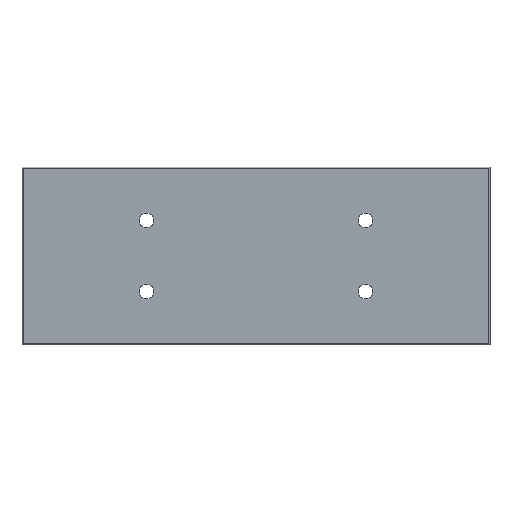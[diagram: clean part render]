
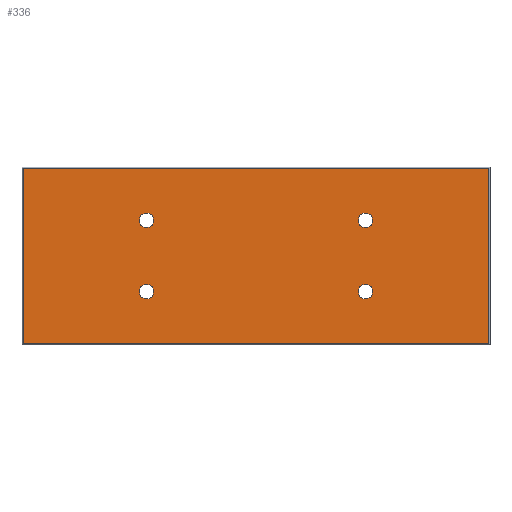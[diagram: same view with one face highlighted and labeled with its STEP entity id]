
A CAD part, top view. The second image highlights one B-rep face of the part: STEP entity #336.
In plain terms, the highlighted planar face has unit normal (0, 0, 1).
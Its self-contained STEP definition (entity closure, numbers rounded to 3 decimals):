
#124 = VERTEX_POINT('',#125);
#125 = CARTESIAN_POINT('',(47.5,110.5,41.5));
#133 = VERTEX_POINT('',#134);
#134 = CARTESIAN_POINT('',(47.5,174.5,41.5));
#140 = EDGE_CURVE('',#124,#133,#141,.T.);
#141 = LINE('',#142,#143);
#142 = CARTESIAN_POINT('',(47.5,110.,41.5));
#143 = VECTOR('',#144,1.);
#144 = DIRECTION('',(0.,1.,0.));
#234 = VERTEX_POINT('',#235);
#235 = CARTESIAN_POINT('',(217.5,110.5,41.5));
#241 = EDGE_CURVE('',#124,#234,#242,.T.);
#242 = LINE('',#243,#244);
#243 = CARTESIAN_POINT('',(47.,110.5,41.5));
#244 = VECTOR('',#245,1.);
#245 = DIRECTION('',(1.,0.,0.));
#336 = ADVANCED_FACE('',(#337,#355,#366,#377,#388),#399,.T.);
#337 = FACE_BOUND('',#338,.T.);
#338 = EDGE_LOOP('',(#339,#340,#341,#349));
#339 = ORIENTED_EDGE('',*,*,#140,.F.);
#340 = ORIENTED_EDGE('',*,*,#241,.T.);
#341 = ORIENTED_EDGE('',*,*,#342,.T.);
#342 = EDGE_CURVE('',#234,#343,#345,.T.);
#343 = VERTEX_POINT('',#344);
#344 = CARTESIAN_POINT('',(217.5,174.5,41.5));
#345 = LINE('',#346,#347);
#346 = CARTESIAN_POINT('',(217.5,110.,41.5));
#347 = VECTOR('',#348,1.);
#348 = DIRECTION('',(0.,1.,0.));
#349 = ORIENTED_EDGE('',*,*,#350,.F.);
#350 = EDGE_CURVE('',#133,#343,#351,.T.);
#351 = LINE('',#352,#353);
#352 = CARTESIAN_POINT('',(47.,174.5,41.5));
#353 = VECTOR('',#354,1.);
#354 = DIRECTION('',(1.,0.,0.));
#355 = FACE_BOUND('',#356,.T.);
#356 = EDGE_LOOP('',(#357));
#357 = ORIENTED_EDGE('',*,*,#358,.T.);
#358 = EDGE_CURVE('',#359,#359,#361,.T.);
#359 = VERTEX_POINT('',#360);
#360 = CARTESIAN_POINT('',(95.15,129.5,41.5));
#361 = CIRCLE('',#362,2.65);
#362 = AXIS2_PLACEMENT_3D('',#363,#364,#365);
#363 = CARTESIAN_POINT('',(92.5,129.5,41.5));
#364 = DIRECTION('',(0.,0.,-1.));
#365 = DIRECTION('',(1.,0.,0.));
#366 = FACE_BOUND('',#367,.T.);
#367 = EDGE_LOOP('',(#368));
#368 = ORIENTED_EDGE('',*,*,#369,.T.);
#369 = EDGE_CURVE('',#370,#370,#372,.T.);
#370 = VERTEX_POINT('',#371);
#371 = CARTESIAN_POINT('',(175.15,129.5,41.5));
#372 = CIRCLE('',#373,2.65);
#373 = AXIS2_PLACEMENT_3D('',#374,#375,#376);
#374 = CARTESIAN_POINT('',(172.5,129.5,41.5));
#375 = DIRECTION('',(0.,0.,-1.));
#376 = DIRECTION('',(1.,0.,0.));
#377 = FACE_BOUND('',#378,.T.);
#378 = EDGE_LOOP('',(#379));
#379 = ORIENTED_EDGE('',*,*,#380,.T.);
#380 = EDGE_CURVE('',#381,#381,#383,.T.);
#381 = VERTEX_POINT('',#382);
#382 = CARTESIAN_POINT('',(95.15,155.5,41.5));
#383 = CIRCLE('',#384,2.65);
#384 = AXIS2_PLACEMENT_3D('',#385,#386,#387);
#385 = CARTESIAN_POINT('',(92.5,155.5,41.5));
#386 = DIRECTION('',(0.,0.,-1.));
#387 = DIRECTION('',(1.,0.,0.));
#388 = FACE_BOUND('',#389,.T.);
#389 = EDGE_LOOP('',(#390));
#390 = ORIENTED_EDGE('',*,*,#391,.T.);
#391 = EDGE_CURVE('',#392,#392,#394,.T.);
#392 = VERTEX_POINT('',#393);
#393 = CARTESIAN_POINT('',(175.15,155.5,41.5));
#394 = CIRCLE('',#395,2.65);
#395 = AXIS2_PLACEMENT_3D('',#396,#397,#398);
#396 = CARTESIAN_POINT('',(172.5,155.5,41.5));
#397 = DIRECTION('',(0.,0.,-1.));
#398 = DIRECTION('',(1.,0.,0.));
#399 = PLANE('',#400);
#400 = AXIS2_PLACEMENT_3D('',#401,#402,#403);
#401 = CARTESIAN_POINT('',(47.,110.,41.5));
#402 = DIRECTION('',(0.,0.,1.));
#403 = DIRECTION('',(1.,0.,0.));
